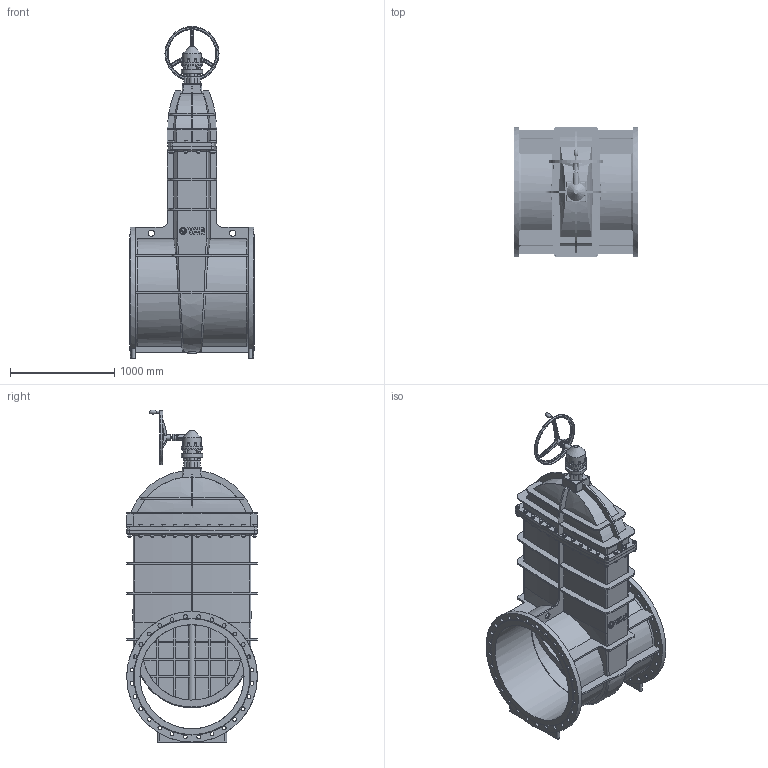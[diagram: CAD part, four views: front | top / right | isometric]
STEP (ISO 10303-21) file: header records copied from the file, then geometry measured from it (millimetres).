
FILE_DESCRIPTION(('STEP AP242'), '1');
FILE_NAME('青溻桄赅', '', ('UNSPECIFIED'), ('UNSPECIFIED'), 'C3D Converter', 'C3D Toolkit', '');
FILE_SCHEMA(('AP242_MANAGED_MODEL_BASED_3D_ENGINEERING_MIM_LF { 1 0 10303 442 1 1 4 }'));
Length unit declared in the file: millimetre
Assembly tree (195 placements, depth 2):
  (unnamed)
    (unnamed)
    (unnamed)
    (unnamed)
    (unnamed)  x2
    (unnamed)
    (unnamed)
    (unnamed)
    (unnamed)
    (unnamed)
    (unnamed)  x28
    (unnamed)  x56
    (unnamed)  x56
    (unnamed)  x28
    (unnamed)
    (unnamed)  x4
    (unnamed)  x12
Bounding box: 1200 x 1256 x 3189.32 mm (x, y, z)
Volume: 305350642 mm3; surface area: 28630281.8 mm2
Topology: 203 solids, 203 shells, 3430 faces, 7893 edges, 4972 vertices
Faces by surface type: plane 1937, cylinder 776, cone 408, extrusion 151, torus 86, bspline 72
Full cylindrical faces by diameter (mm): 5 x12, 6 x39, 10 x16, 12 x20, 17.294 x28, 18 x8, 20 x33, 22 x140, 30 x28, 34 x56, 37 x56, 40 x10, 50 x1, 60 x4, 73.333 x5, 74.519 x1, 80 x1, 153.825 x2, 178.745 x1, 203.666 x3, 460 x1, 470 x1, 510 x1, 520 x1, 950 x2, 1000 x4, 1060 x4, 1100 x1, 1255 x2
Entity records: 77026 total; most frequent: CARTESIAN_POINT 32369, ORIENTED_EDGE 7508, DIRECTION 7316, EDGE_CURVE 3754, AXIS2_PLACEMENT_3D 2638, VERTEX_POINT 2620, EDGE_LOOP 2258, VECTOR 2040
